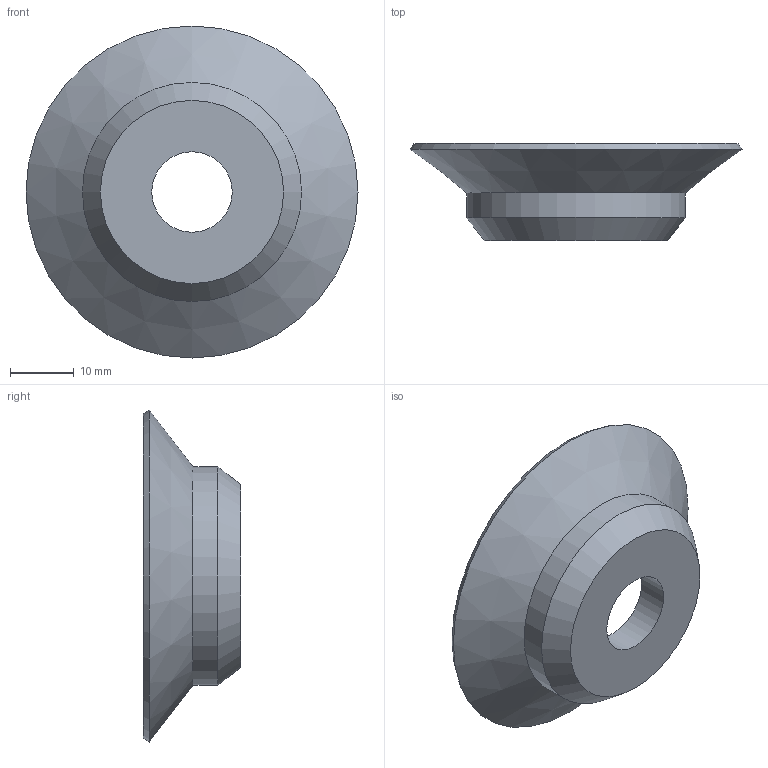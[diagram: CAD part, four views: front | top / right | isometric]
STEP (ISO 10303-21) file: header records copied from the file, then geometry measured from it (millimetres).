
FILE_DESCRIPTION (( 'STEP AP214' ), '1' );
FILE_NAME ('10F.052.003.02.STEP', '2025-07-15T15:57:47', ( '' ), ( '' ), 'SwSTEP 2.0', 'SolidWorks 2025', '' );
FILE_SCHEMA (( 'AUTOMOTIVE_DESIGN' ));
Length unit declared in the file: millimetre
Products named in the file (1): 10F.052.003.02
Bounding box: 52 x 15.2 x 52 mm (x, y, z)
Volume: 7545.3 mm3; surface area: 5656.5 mm2
Topology: 1 solids, 1 shells, 9 faces, 16 edges, 9 vertices
Faces by surface type: cylinder 3, cone 3, plane 2, bspline 1
Full cylindrical faces by diameter (mm): 12.6 x1, 25.2 x1, 34.3 x1
Entity records: 234 total; most frequent: CARTESIAN_POINT 55, DIRECTION 36, ORIENTED_EDGE 18, EDGE_LOOP 18, AXIS2_PLACEMENT_3D 18, FACE_OUTER_BOUND 13, ADVANCED_FACE 9, CIRCLE 9
